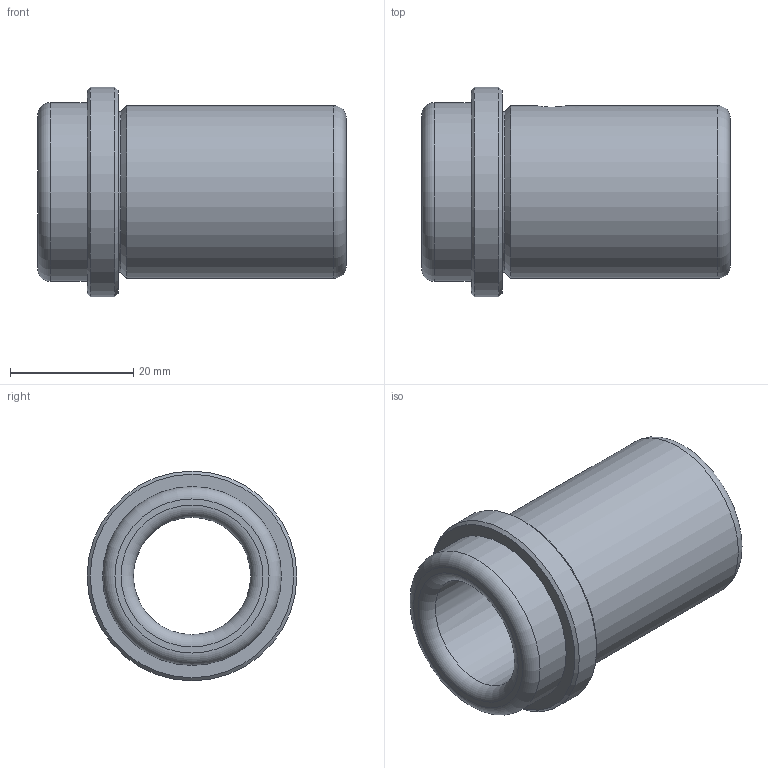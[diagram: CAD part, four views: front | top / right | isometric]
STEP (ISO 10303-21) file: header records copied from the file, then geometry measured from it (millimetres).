
FILE_DESCRIPTION( ( 'STEP AP214' ), '1' );
FILE_NAME( 'p:/temp/worker_900/temp/exporttempdir_4268_58_rSGs7/format_0/WZ - 4032 19 x 50.stp', '2020-12-03T19:41:19', ( 'License CC BY-ND 4.0' ), ( 'CADENAS' ), ' ', 'PARTsolutions', ' ' );
FILE_SCHEMA( ( 'AUTOMOTIVE_DESIGN { 1 0 10303 214 1 1 1 1 }' ) );
Length unit declared in the file: millimetre
Products named in the file (1): _WZ - 4032 19 x 50
Bounding box: 50 x 34 x 34 mm (x, y, z)
Volume: 17812.3 mm3; surface area: 8698.2 mm2
Topology: 1 solids, 1 shells, 19 faces, 34 edges, 20 vertices
Faces by surface type: cylinder 6, plane 5, torus 4, cone 4
Full cylindrical faces by diameter (mm): 5 x1, 19 x1, 26 x1, 28 x1, 29 x1, 34 x1
Entity records: 680 total; most frequent: CARTESIAN_POINT 176, DIRECTION 76, EDGE_LOOP 40, ORIENTED_EDGE 40, AXIS2_PLACEMENT_3D 38, FACE_OUTER_BOUND 29, EDGE_CURVE 20, VERTEX_POINT 20
